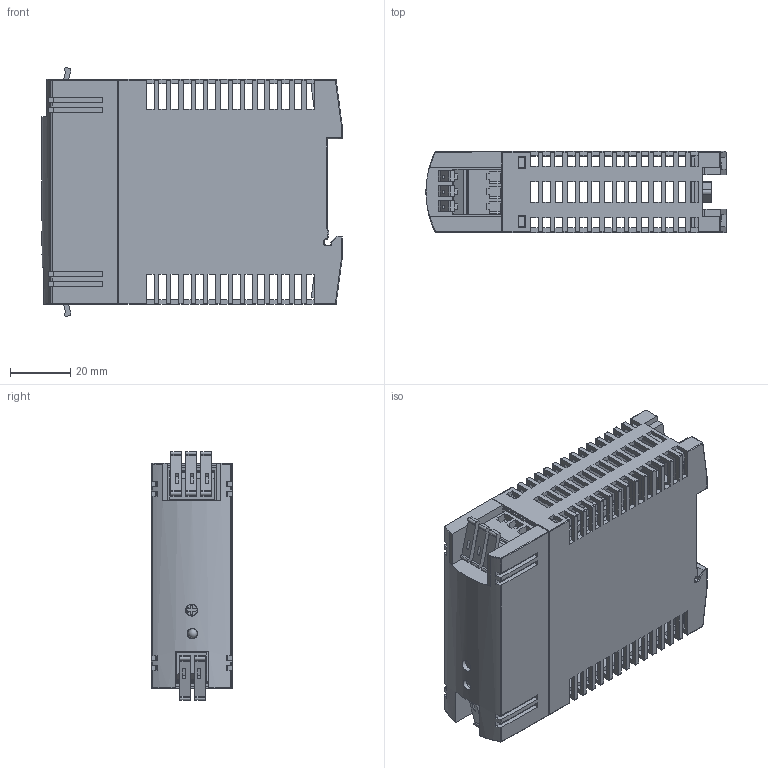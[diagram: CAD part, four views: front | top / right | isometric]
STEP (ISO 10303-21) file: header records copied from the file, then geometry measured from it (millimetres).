
FILE_DESCRIPTION(/* description */ ('Unknown'),/* implementation_level */ '2;1');
FILE_NAME(/* name */ 'TCL 024-124_C',/* time_stamp */ '2020-11-24T10:57:33+00:00',/* author */ ('Unknown'),/* organization */ ('Unknown'),/* preprocessor_version */ 'ST-DEVELOPER v16.7',/* originating_system */ 'Solid Edge',/* authorisation */ 'Unknown');
FILE_SCHEMA (('AUTOMOTIVE_DESIGN {1 0 10303 214 3 1 1}'));
Length unit declared in the file: millimetre
Products named in the file (1): TCL 024-124_C
Bounding box: 100 x 27.09 x 82.95 mm (x, y, z)
Volume: 39417.4 mm3; surface area: 49662.6 mm2
Topology: 3 solids, 3 shells, 1269 faces, 4001 edges, 2620 vertices
Faces by surface type: plane 1066, cylinder 174, torus 12, sphere 11, cone 4, bspline 2
Full cylindrical faces by diameter (mm): 0.305 x2, 0.5 x2, 0.508 x3, 3 x1, 3.5 x1, 3.708 x1, 3.861 x1, 4 x1, 5.41 x1, 6.401 x1, 6.502 x1
Entity records: 53329 total; most frequent: CARTESIAN_POINT 8500, ORIENTED_EDGE 7920, DIRECTION 6892, EDGE_CURVE 3960, LINE 3534, VECTOR 3534, VERTEX_POINT 2612, AXIS2_PLACEMENT_3D 1679
